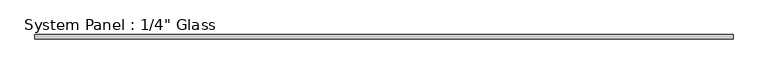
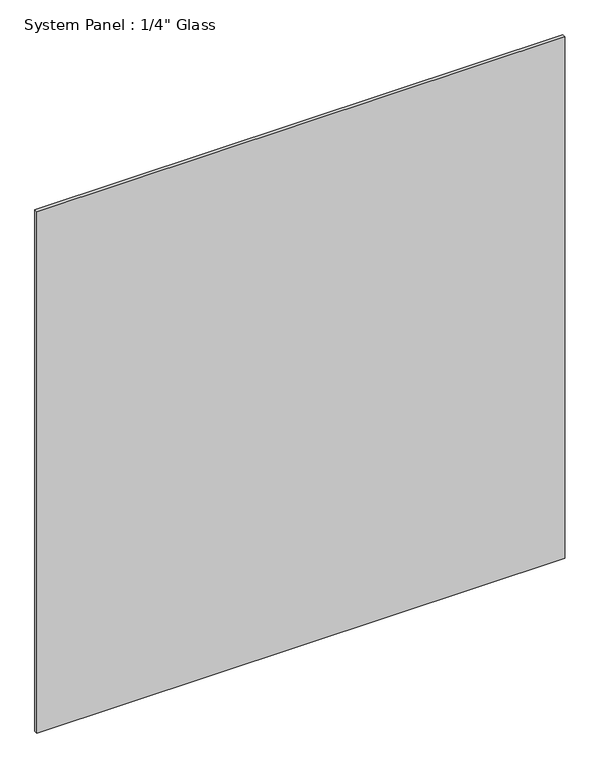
"""IFC4 building model written with IfcOpenShell, lengths in millimetres: plate geometry."""

from ifc_helpers import new_model, si_unit, origin, origin_with_axes, place, context, project, spatial, polyline, outline, extrude, source, transform, mapped, element, save


def plate_a2bcb05a(model_context):
    return source(origin(), model_context, "Body", "SweptSolid", [
        extrude(outline(polyline([(525.8680918, -3.175), (-525.8680918, -3.175), (-525.8680918, 3.175), (525.8680918, 3.175), (525.8680918, -3.175)])), origin_with_axes(), (0.0, 0.0, 1.0), 1098.55),
    ])


if __name__ == "__main__":
    model = new_model("IFC4")
    model_context = context("Model", 3, world=origin())
    ifc_project = project(units=[si_unit("LENGTHUNIT", "METRE", prefix="MILLI")], contexts=[model_context])
    site = spatial("IfcSite", under=ifc_project)
    building = spatial("IfcBuilding", under=site)
    placement = place(None, origin())
    plate_shape = plate_a2bcb05a(model_context)
    element("IfcPlate", 1, ObjectType="System Panel : 1/4\" Glass", at=placement, inside=building, context=model_context, shape_type="MappedRepresentation", body=[
        mapped(plate_shape, transform((0.0, 0.0, 0.0), x_axis=(1.0, 0.0, 0.0), y_axis=(0.0, 1.0, 0.0), z_axis=(0.0, 0.0, 1.0))),
    ])
    save(model, "model.ifc")
